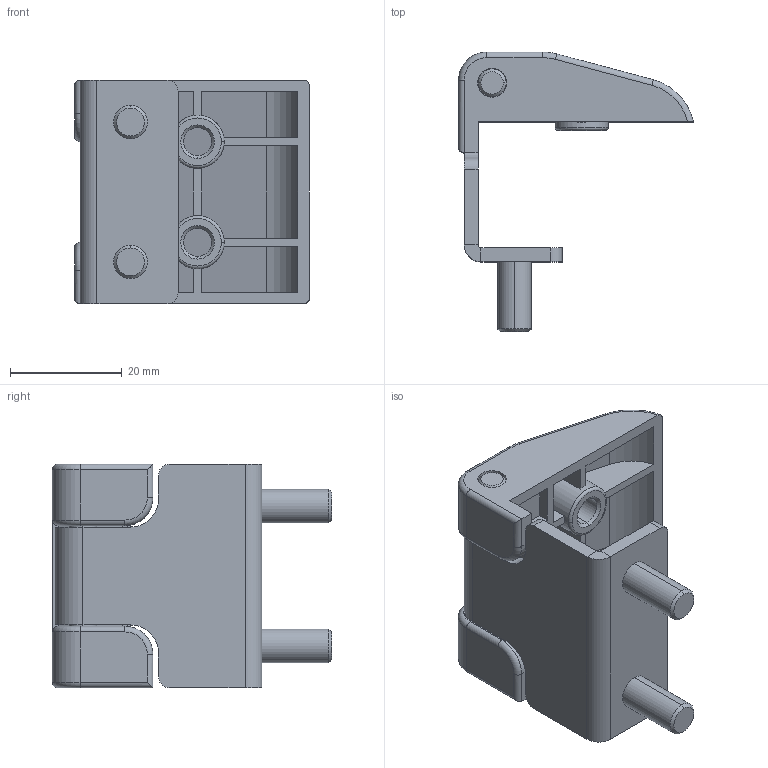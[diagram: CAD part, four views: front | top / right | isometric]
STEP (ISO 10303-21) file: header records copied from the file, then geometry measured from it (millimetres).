
FILE_DESCRIPTION (( 'STEP AP214' ), '1' );
FILE_NAME ('3.ZN154.001.STEP', '2011-01-27T09:56:37', ( '£ukasz Cieæka' ), ( '' ), 'SwSTEP 2.0', 'SolidWorks 2010', '' );
FILE_SCHEMA (( 'AUTOMOTIVE_DESIGN' ));
Length unit declared in the file: millimetre
Products named in the file (1): 3.ZN154.001
Bounding box: 42 x 50 x 40 mm (x, y, z)
Surface area: 12569.6 mm2 (no closed solid volume)
Topology: 0 solids, 7 shells, 147 faces, 521 edges, 380 vertices
Faces by surface type: plane 73, cylinder 48, torus 14, cone 12
Entity records: 7365 total; most frequent: CARTESIAN_POINT 1095, DIRECTION 1017, ORIENTED_EDGE 864, EDGE_CURVE 521, VERTEX_POINT 380, AXIS2_PLACEMENT_3D 360, VECTOR 297, LINE 297
